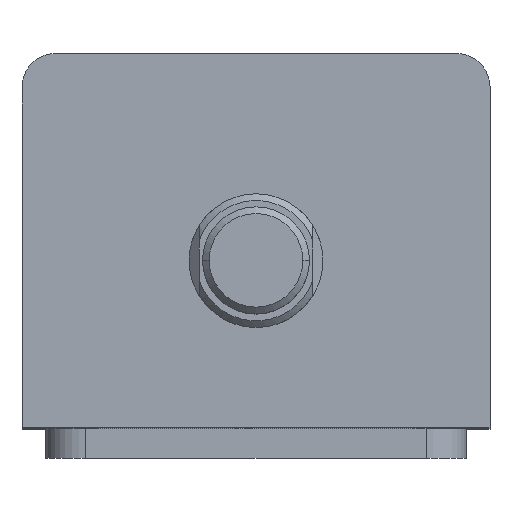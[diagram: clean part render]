
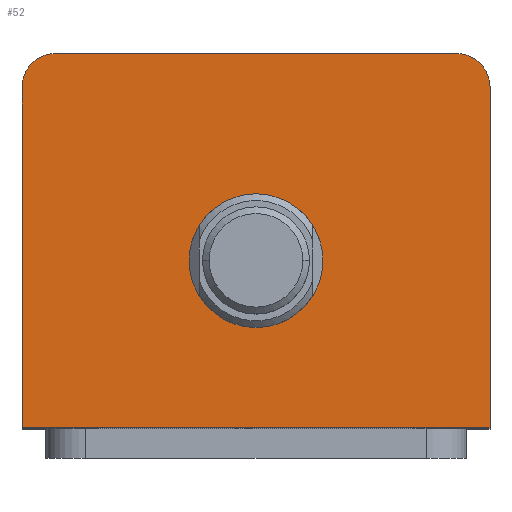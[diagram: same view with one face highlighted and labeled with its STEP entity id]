
A CAD part, top view. The second image highlights one B-rep face of the part: STEP entity #52.
In plain terms, the highlighted planar face has unit normal (0, 0, 1).
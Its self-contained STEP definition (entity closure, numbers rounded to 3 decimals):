
#52 = ADVANCED_FACE ( 'NONE', ( #2038, #2042 ), #2382, .T. ) ;
#273 = AXIS2_PLACEMENT_3D ( 'NONE', #873, #870, #869 ) ;
#277 = AXIS2_PLACEMENT_3D ( 'NONE', #931, #930, #929 ) ;
#299 = AXIS2_PLACEMENT_3D ( 'NONE', #1070, #1068, #1067 ) ;
#374 = AXIS2_PLACEMENT_3D ( 'NONE', #969, #968, #966 ) ;
#394 = EDGE_CURVE ( 'NONE', #2576, #2633, #2151, .T. ) ;
#414 = EDGE_CURVE ( 'NONE', #2611, #2671, #2162, .T. ) ;
#453 = EDGE_CURVE ( 'NONE', #2671, #2665, #2168, .T. ) ;
#518 = CIRCLE ( 'NONE', #299, 10. ) ;
#536 = EDGE_CURVE ( 'NONE', #2600, #2636, #2194, .T. ) ;
#554 = LINE ( 'NONE', #1476, #560 ) ;
#560 = VECTOR ( 'NONE', #1502, 1000. ) ;
#595 = LINE ( 'NONE', #1641, #598 ) ;
#598 = VECTOR ( 'NONE', #1640, 1000. ) ;
#635 = LINE ( 'NONE', #1653, #640 ) ;
#640 = VECTOR ( 'NONE', #1655, 1000. ) ;
#708 = CARTESIAN_POINT ( 'NONE',  ( 10., -3., 99. ) ) ;
#730 = CARTESIAN_POINT ( 'NONE',  ( 35., -28., 99. ) ) ;
#735 = CARTESIAN_POINT ( 'NONE',  ( 35., 23., 99. ) ) ;
#869 = DIRECTION ( 'NONE',  ( 1., 0., 0. ) ) ;
#870 = DIRECTION ( 'NONE',  ( 0., 0., 1. ) ) ;
#873 = CARTESIAN_POINT ( 'NONE',  ( 0., -3., 99. ) ) ;
#917 = DIRECTION ( 'NONE',  ( 0., -1., 0. ) ) ;
#919 = CARTESIAN_POINT ( 'NONE',  ( -35., 28., 99. ) ) ;
#929 = DIRECTION ( 'NONE',  ( 1., 0., 0. ) ) ;
#930 = DIRECTION ( 'NONE',  ( 0., 0., 1. ) ) ;
#931 = CARTESIAN_POINT ( 'NONE',  ( -30., 23., 99. ) ) ;
#966 = DIRECTION ( 'NONE',  ( 1., 0., 0. ) ) ;
#968 = DIRECTION ( 'NONE',  ( 0., 0., 1. ) ) ;
#969 = CARTESIAN_POINT ( 'NONE',  ( 30., 23., 99. ) ) ;
#1067 = DIRECTION ( 'NONE',  ( 1., 0., 0. ) ) ;
#1068 = DIRECTION ( 'NONE',  ( 0., 0., 1. ) ) ;
#1070 = CARTESIAN_POINT ( 'NONE',  ( 0., -3., 99. ) ) ;
#1228 = CARTESIAN_POINT ( 'NONE',  ( -35., 23., 99. ) ) ;
#1245 = CARTESIAN_POINT ( 'NONE',  ( -35., -28., 99. ) ) ;
#1339 = CARTESIAN_POINT ( 'NONE',  ( -10., -3., 99. ) ) ;
#1346 = CARTESIAN_POINT ( 'NONE',  ( 30., 28., 99. ) ) ;
#1419 = CARTESIAN_POINT ( 'NONE',  ( -30., 28., 99. ) ) ;
#1476 = CARTESIAN_POINT ( 'NONE',  ( -35., -28., 99. ) ) ;
#1502 = DIRECTION ( 'NONE',  ( 1., 0., 0. ) ) ;
#1640 = DIRECTION ( 'NONE',  ( 0., 1., 0. ) ) ;
#1641 = CARTESIAN_POINT ( 'NONE',  ( 35., 28., 99. ) ) ;
#1653 = CARTESIAN_POINT ( 'NONE',  ( -35., 28., 99. ) ) ;
#1655 = DIRECTION ( 'NONE',  ( -1., 0., 0. ) ) ;
#1745 = ORIENTED_EDGE ( 'NONE', *, *, #2924, .T. ) ;
#1746 = ORIENTED_EDGE ( 'NONE', *, *, #453, .T. ) ;
#1747 = ORIENTED_EDGE ( 'NONE', *, *, #414, .T. ) ;
#1748 = ORIENTED_EDGE ( 'NONE', *, *, #2956, .T. ) ;
#1749 = ORIENTED_EDGE ( 'NONE', *, *, #394, .T. ) ;
#1750 = ORIENTED_EDGE ( 'NONE', *, *, #2939, .T. ) ;
#1751 = ORIENTED_EDGE ( 'NONE', *, *, #2901, .F. ) ;
#1752 = ORIENTED_EDGE ( 'NONE', *, *, #536, .F. ) ;
#2038 = FACE_BOUND ( 'NONE', #2777, .T. ) ;
#2042 = FACE_OUTER_BOUND ( 'NONE', #2750, .T. ) ;
#2151 = CIRCLE ( 'NONE', #374, 5. ) ;
#2162 = CIRCLE ( 'NONE', #277, 5. ) ;
#2168 = LINE ( 'NONE', #919, #2171 ) ;
#2171 = VECTOR ( 'NONE', #917, 1000. ) ;
#2194 = CIRCLE ( 'NONE', #273, 10. ) ;
#2375 = DIRECTION ( 'NONE',  ( 1., 0., 0. ) ) ;
#2376 = DIRECTION ( 'NONE',  ( 0., 0., 1. ) ) ;
#2380 = CARTESIAN_POINT ( 'NONE',  ( 0., 0., 99. ) ) ;
#2382 = PLANE ( 'NONE',  #3043 ) ;
#2576 = VERTEX_POINT ( 'NONE', #735 ) ;
#2581 = VERTEX_POINT ( 'NONE', #730 ) ;
#2600 = VERTEX_POINT ( 'NONE', #708 ) ;
#2611 = VERTEX_POINT ( 'NONE', #1419 ) ;
#2633 = VERTEX_POINT ( 'NONE', #1346 ) ;
#2636 = VERTEX_POINT ( 'NONE', #1339 ) ;
#2665 = VERTEX_POINT ( 'NONE', #1245 ) ;
#2671 = VERTEX_POINT ( 'NONE', #1228 ) ;
#2750 = EDGE_LOOP ( 'NONE', ( #1750, #1749, #1748, #1747, #1746, #1745 ) ) ;
#2777 = EDGE_LOOP ( 'NONE', ( #1752, #1751 ) ) ;
#2901 = EDGE_CURVE ( 'NONE', #2636, #2600, #518, .T. ) ;
#2924 = EDGE_CURVE ( 'NONE', #2665, #2581, #554, .T. ) ;
#2939 = EDGE_CURVE ( 'NONE', #2581, #2576, #595, .T. ) ;
#2956 = EDGE_CURVE ( 'NONE', #2633, #2611, #635, .T. ) ;
#3043 = AXIS2_PLACEMENT_3D ( 'NONE', #2380, #2376, #2375 ) ;
